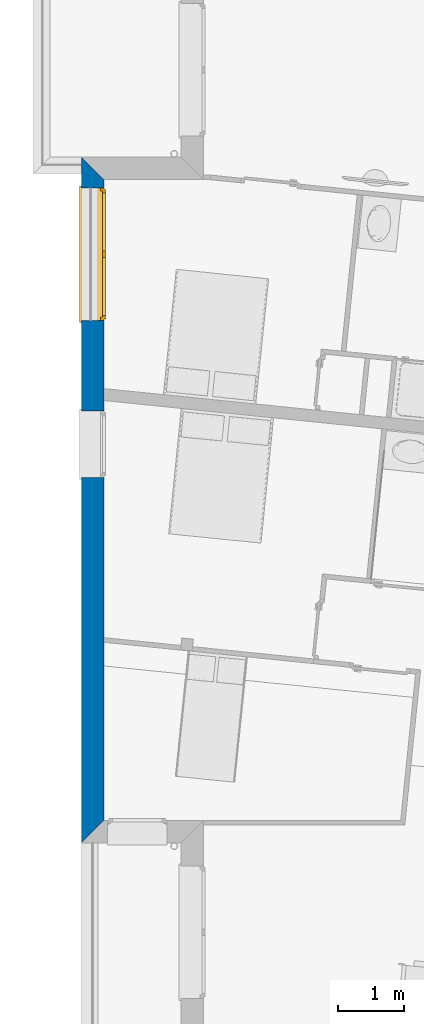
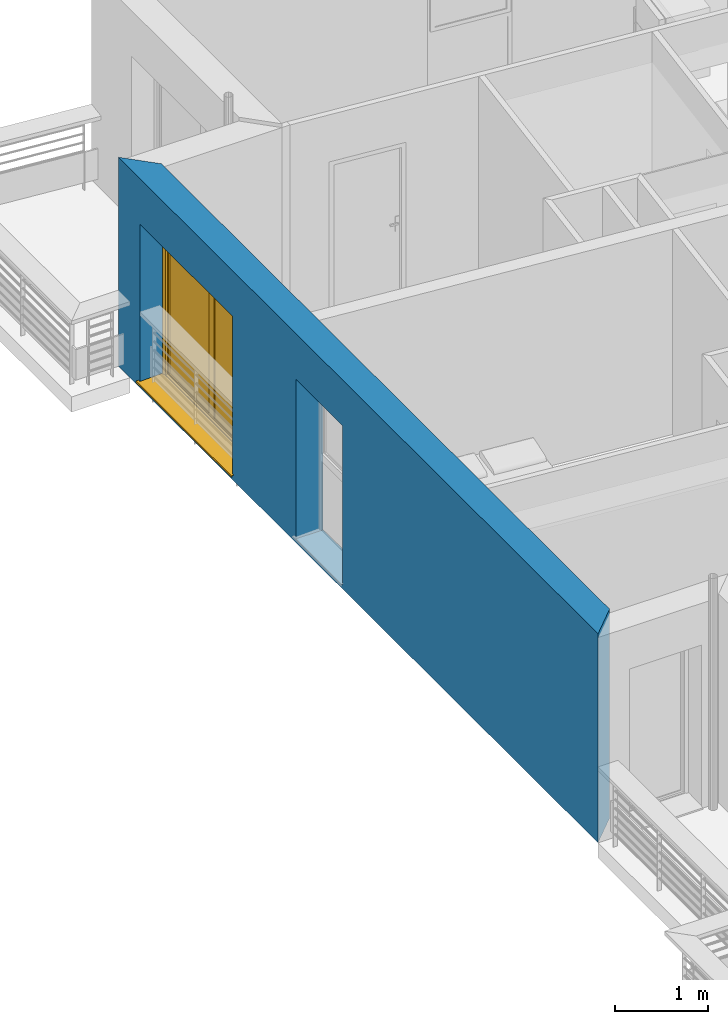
# One storey, part 47 of 164: 1 wall, 1 window, 2 openings.
"""IFC2X3 building model written with IfcOpenShell, lengths in millimetres."""

from ifc_helpers import new_model, entity, si_unit, converted_unit, derived_unit, money_unit, direction, frame, origin_with_axes, place, context, subcontext, project, spatial, polyline, outline, extrude, open_shell, faceted_brep, surface_model, source, transform, mapped, material, layer, layer_set, layer_usage, type_object, element, fill, save


model = new_model("IFC2X3")

# Units and contexts
model_context = context("Model", 3, precision=0.01, world=origin_with_axes(), true_north=direction((0.0, 1.0)))
body_context = subcontext(model_context, "Body", "Model", "MODEL_VIEW")
ifc_project = project(units=[si_unit("LENGTHUNIT", "METRE", prefix="MILLI"), si_unit("AREAUNIT", "SQUARE_METRE"), si_unit("VOLUMEUNIT", "CUBIC_METRE"), converted_unit("PLANEANGLEUNIT", "DEGREE", entity("IfcPlaneAngleMeasure", 0.0174532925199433), si_unit("PLANEANGLEUNIT", "RADIAN"), dimensions=[0, 0, 0, 0, 0, 0, 0]), money_unit("USD"), converted_unit("TIMEUNIT", "Year", entity("IfcTimeMeasure", 31557600.0), si_unit("TIMEUNIT", "SECOND"), dimensions=[0, 0, 1, 0, 0, 0, 0]), si_unit("MASSUNIT", "GRAM", prefix="KILO"), si_unit("THERMODYNAMICTEMPERATUREUNIT", "DEGREE_CELSIUS"), si_unit("LUMINOUSINTENSITYUNIT", "LUMEN"), si_unit("ENERGYUNIT", "JOULE", prefix="MEGA"), derived_unit("THERMALCONDUCTANCEUNIT", [(si_unit("POWERUNIT", "WATT"), 1), (si_unit("LENGTHUNIT", "METRE"), -1), (si_unit("THERMODYNAMICTEMPERATUREUNIT", "KELVIN"), -1)]), derived_unit("SPECIFICHEATCAPACITYUNIT", [(si_unit("ENERGYUNIT", "JOULE"), 1), (si_unit("MASSUNIT", "GRAM", prefix="KILO"), -1), (si_unit("THERMODYNAMICTEMPERATUREUNIT", "KELVIN"), -1)]), derived_unit("MASSDENSITYUNIT", [(si_unit("MASSUNIT", "GRAM", prefix="KILO"), 1), (si_unit("VOLUMEUNIT", "CUBIC_METRE"), -1)])], contexts=[model_context])

# Site, building, storey
site_placement = place(None, origin_with_axes())
site = spatial("IfcSite", under=ifc_project, at=site_placement, Name="Site", CompositionType="ELEMENT")
building_placement = place(site_placement, origin_with_axes())
building = spatial("IfcBuilding", under=site, at=building_placement, Name="Bâtiment", CompositionType="ELEMENT")
storey_placement = place(building_placement, frame((0.0, 0.0, 5750.0), z_axis=(0.0, 0.0, 1.0), x_axis=(1.0, 0.0, 0.0)))
storey = spatial("IfcBuildingStorey", under=building, at=storey_placement, Name="Etage1", CompositionType="ELEMENT", Elevation=5750.0)

# Wall, openings, window
ifc_material_1 = material(Name="Parpaing 312445824")
ifc_layer_1 = layer(ifc_material_1, 180.0, ventilated="UNKNOWN")
ifc_material_2 = material(Name="Isolant styromousse 301821074")
ifc_layer_2 = layer(ifc_material_2, 160.0, ventilated="UNKNOWN")
ifc_layer_set = layer_set([ifc_layer_1, ifc_layer_2], Name="isol int 18+16 0018356637")
ifc_layer_usage = layer_usage(ifc_layer_set, "AXIS2", "POSITIVE", 0.0)
wall_type = type_object("IfcWallType", Name="isol int 18+16 0018356637 340", PredefinedType="NOTDEFINED")
wall_placement = place(storey_placement, frame((2216634.233344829, -607167.3879007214, 0.0), z_axis=(0.0, 0.0, 1.0), x_axis=(0.0, -1.0, 0.0)))
wall = element("IfcWallStandardCase", 1, at=wall_placement, inside=storey, type_object=wall_type, material=ifc_layer_usage, Name="Mur-143", context=body_context, shape_type="SweptSolid", body=[
    extrude(outline(polyline([(0.0, 0.0), (10340.11790760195, 0.0), (10000.11790760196, 340.0000000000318), (340.0000000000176, 340.0000000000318), (0.0, 0.0)])), origin_with_axes(), (0.0, 0.0, 1.0), 2750.0),
])
opening_1_placement = place(wall_placement, frame((4327.743476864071, 2.273736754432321e-10, 49.99999999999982), z_axis=(0.0, 0.0, 1.0), x_axis=(1.0, 0.0, 0.0)))
element("IfcOpeningElement", 2, at=opening_1_placement, cuts=wall, Name="Fen-133", context=body_context, shape_type="Brep", body=[
    faceted_brep([(-499.9999999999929, 290.0000000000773, 2100.0), (-499.9999999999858, 341.0000000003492, 2100.0), (-499.9999999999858, 341.0000000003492, 0.0), (-499.9999999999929, 290.0000000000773, 0.0), (-499.9999999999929, 280.0000000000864, 2100.0), (-499.9999999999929, 280.0000000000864, 2350.0), (-499.9999999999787, 530.0000000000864, 2350.0), (-499.9999999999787, 530.0000000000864, 2100.0), (500.0000000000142, 341.0000000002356, 2100.0), (500.0000000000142, 341.0000000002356, 0.0), (500.0000000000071, 289.9999999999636, 0.0), (500.0, -1.00000000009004, 0.0), (-500.0, -0.9999999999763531, 0.0), (-500.0, -0.9999999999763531, 2100.0), (500.0000000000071, 279.9999999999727, 2100.0), (500.0000000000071, 279.9999999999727, 2350.0), (500.0000000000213, 529.9999999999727, 2350.0), (500.0000000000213, 529.9999999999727, 2100.0), (500.0000000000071, 289.9999999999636, 2100.0), (500.0, -1.00000000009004, 2100.0)], [[[0, 1, 2, 3]], [[1, 0, 4, 5, 6, 7]], [[1, 8, 9, 2]], [[10, 11, 12, 3, 2, 9]], [[4, 0, 3, 12, 13]], [[4, 14, 15, 5]], [[6, 5, 15, 16]], [[7, 6, 16, 17]], [[8, 1, 7, 17]], [[8, 18, 10, 9]], [[18, 14, 19, 11, 10]], [[13, 12, 11, 19]], [[14, 4, 13, 19]], [[18, 8, 17, 16, 15, 14]]]),
])
opening_2_placement = place(wall_placement, frame((1464.217680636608, 1.13686837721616e-10, 49.99999999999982), z_axis=(0.0, 0.0, 1.0), x_axis=(1.0, 0.0, 0.0)))
opening_2 = element("IfcOpeningElement", 3, at=opening_2_placement, cuts=wall, Name="Fen-207", context=body_context, shape_type="Brep", body=[
    faceted_brep([(-999.999999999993, 290.000000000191, 2100.0), (-999.9999999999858, 341.0000000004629, 2100.0), (-999.9999999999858, 341.0000000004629, 0.0), (-999.999999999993, 290.000000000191, 0.0), (-999.999999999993, 280.0000000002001, 2100.0), (-999.999999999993, 280.0000000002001, 2350.0), (-999.9999999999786, 530.0000000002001, 2350.0), (-999.9999999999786, 530.0000000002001, 2100.0), (1000.000000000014, 341.0000000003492, 2100.0), (1000.000000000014, 341.0000000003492, 0.0), (1000.000000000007, 290.0000000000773, 0.0), (1000.0, -0.9999999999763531, 0.0), (-1000.0, -0.9999999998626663, 0.0), (-1000.0, -0.9999999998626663, 2100.0), (1000.000000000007, 280.0000000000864, 2100.0), (1000.000000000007, 280.0000000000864, 2350.0), (1000.000000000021, 530.0000000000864, 2350.0), (1000.000000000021, 530.0000000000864, 2100.0), (1000.000000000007, 290.0000000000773, 2100.0), (1000.0, -0.9999999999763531, 2100.0)], [[[0, 1, 2, 3]], [[1, 0, 4, 5, 6, 7]], [[1, 8, 9, 2]], [[10, 11, 12, 3, 2, 9]], [[4, 0, 3, 12, 13]], [[4, 14, 15, 5]], [[6, 5, 15, 16]], [[7, 6, 16, 17]], [[8, 1, 7, 17]], [[8, 18, 10, 9]], [[18, 14, 19, 11, 10]], [[13, 12, 11, 19]], [[14, 4, 13, 19]], [[18, 8, 17, 16, 15, 14]]]),
])
window_style = type_object("IfcWindowStyle", Name="Fenêtre châssis double variable 27", ConstructionType="NOTDEFINED", OperationType="DOUBLE_PANEL_VERTICAL", ParameterTakesPrecedence=False, Sizeable=False)
shared_shape = source(origin_with_axes(), body_context, "Body", "SurfaceModel", [
    surface_model("IfcShellBasedSurfaceModel", [(-1000.0, -51.00000000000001, 40.00000000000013), (1000.0, -51.00000000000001, 40.0), (1000.0, -51.00000000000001, 50.0), (-1000.0, -51.00000000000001, 50.00000000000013), (-1030.0, -369.9999999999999, 28.96551724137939), (1030.0, -369.9999999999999, 28.96551724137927), (1030.0, -339.9999999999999, 30.00324289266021), (1000.0, -339.9999999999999, 30.00324289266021), (-1000.0, -339.9999999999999, 30.00324289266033), (-1030.0, -339.9999999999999, 30.00324289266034), (-1030.0, -369.9999999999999, 8.965517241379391), (1030.0, -369.9999999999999, 8.965517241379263), (-1030.0, -359.9999999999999, 18.96551724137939), (1030.0, -359.9999999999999, 18.96551724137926)], [open_shell([[[0, 1, 2, 3]], [[4, 5, 6, 7, 1, 0, 8, 9]], [[10, 11, 5, 4]], [[12, 13, 11, 10]]])]),
    faceted_brep([(1000.0, -60.00000000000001, 2350.0), (1000.0, 190.0, 2350.0), (997.0, 190.0, 2350.0), (997.0, -60.00000000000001, 2350.0), (1000.0, -60.00000000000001, 2100.0), (1000.0, 190.0, 2100.0), (997.0, 190.0, 2100.0), (997.0, -60.00000000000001, 2100.0)], [[[0, 1, 2, 3]], [[0, 4, 5, 1]], [[1, 5, 6, 2]], [[3, 2, 6, 7]], [[4, 0, 3, 7]], [[5, 4, 7, 6]]]),
    faceted_brep([(-997.0000000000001, -59.99999999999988, 2350.0), (-997.0000000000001, 190.0000000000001, 2350.0), (-1000.0, 190.0000000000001, 2350.0), (-1000.0, -59.99999999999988, 2350.0), (-997.0000000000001, -59.99999999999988, 2100.0), (-997.0000000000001, 190.0000000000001, 2100.0), (-1000.0, 190.0000000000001, 2100.0), (-1000.0, -59.99999999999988, 2100.0)], [[[0, 1, 2, 3]], [[0, 4, 5, 1]], [[1, 5, 6, 2]], [[3, 2, 6, 7]], [[4, 0, 3, 7]], [[5, 4, 7, 6]]]),
    faceted_brep([(997.0, -60.0, 2100.0), (997.0, -60.0, 2350.0), (-997.0, -59.99999999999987, 2350.0), (-997.0, -59.99999999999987, 2100.0), (997.0, -56.99999999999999, 2100.0), (997.0, -56.99999999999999, 2347.0), (997.0, 187.0, 2347.0), (997.0, 187.0, 2103.0), (997.0, -37.99999999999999, 2103.0), (997.0, -37.99999999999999, 2100.0), (997.0, 190.0, 2100.0), (997.0, 190.0, 2350.0), (-997.0, 190.0000000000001, 2350.0), (-997.0, 190.0000000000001, 2100.0), (-997.0, -37.99999999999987, 2100.0), (-997.0, -37.99999999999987, 2103.0), (-997.0, 187.0000000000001, 2103.0), (-997.0, 187.0000000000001, 2347.0), (-997.0, -56.99999999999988, 2347.0), (-997.0, -56.99999999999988, 2100.0)], [[[0, 1, 2, 3]], [[0, 4, 5, 6, 7, 8, 9, 10, 11, 1]], [[1, 11, 12, 2]], [[3, 2, 12, 13, 14, 15, 16, 17, 18, 19]], [[4, 0, 3, 19]], [[5, 4, 19, 18]], [[6, 5, 18, 17]], [[7, 6, 17, 16]], [[8, 7, 16, 15]], [[9, 8, 15, 14]], [[10, 9, 14, 13]], [[11, 10, 13, 12]]]),
    faceted_brep([(994.0, -40.37442957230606, 2206.419644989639), (994.0, -35.54711042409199, 2188.403844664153), (994.0, -27.66471820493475, 2171.5), (994.0, -16.9667554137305, 2156.22172576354), (994.0, -3.778274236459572, 2143.03324458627), (994.0, 11.50000000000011, 2132.335281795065), (994.0, 28.40384466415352, 2124.452889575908), (994.0, 46.4196449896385, 2119.625570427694), (994.0, 65.00000000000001, 2118.0), (994.0, 83.58035501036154, 2119.625570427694), (994.0, 101.5961553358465, 2124.452889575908), (994.0, 118.4999999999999, 2132.335281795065), (994.0, 133.7782742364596, 2143.03324458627), (994.0, 146.9667554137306, 2156.22172576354), (994.0, 157.6647182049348, 2171.5), (994.0, 165.5471104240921, 2188.403844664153), (994.0, 170.3744295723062, 2206.419644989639), (994.0, 171.9999999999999, 2225.0), (994.0, 170.3744295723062, 2243.580355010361), (994.0, 165.5471104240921, 2261.596155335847), (994.0, 157.6647182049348, 2278.5), (994.0, 146.9667554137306, 2293.77827423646), (994.0, 133.7782742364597, 2306.966755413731), (994.0, 118.5, 2317.664718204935), (994.0, 101.5961553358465, 2325.547110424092), (994.0, 83.58035501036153, 2330.374429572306), (994.0, 64.99999999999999, 2332.0), (994.0, 46.41964498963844, 2330.374429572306), (994.0, 28.40384466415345, 2325.547110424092), (994.0, 11.5, 2317.664718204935), (994.0, -3.778274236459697, 2306.966755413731), (994.0, -16.96675541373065, 2293.77827423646), (994.0, -27.66471820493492, 2278.5), (994.0, -35.54711042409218, 2261.596155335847), (994.0, -40.37442957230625, 2243.580355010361), (994.0, -41.99999999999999, 2225.0), (-994.0, -40.37442957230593, 2206.419644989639), (-994.0, -35.54711042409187, 2188.403844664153), (-994.0, -27.66471820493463, 2171.5), (-994.0, -16.96675541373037, 2156.22172576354), (-994.0, -3.778274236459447, 2143.03324458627), (-994.0, 11.50000000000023, 2132.335281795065), (-994.0, 28.40384466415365, 2124.452889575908), (-994.0, 46.41964498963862, 2119.625570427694), (-994.0, 65.00000000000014, 2118.0), (-994.0, 83.58035501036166, 2119.625570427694), (-994.0, 101.5961553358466, 2124.452889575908), (-994.0, 118.5000000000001, 2132.335281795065), (-994.0, 133.7782742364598, 2143.03324458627), (-994.0, 146.9667554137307, 2156.22172576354), (-994.0, 157.6647182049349, 2171.5), (-994.0, 165.5471104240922, 2188.403844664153), (-994.0, 170.3744295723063, 2206.419644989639), (-994.0, 172.0, 2225.0), (-994.0, 170.3744295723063, 2243.580355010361), (-994.0, 165.5471104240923, 2261.596155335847), (-994.0, 157.664718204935, 2278.5), (-994.0, 146.9667554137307, 2293.77827423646), (-994.0, 133.7782742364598, 2306.966755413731), (-994.0, 118.5000000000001, 2317.664718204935), (-994.0, 101.5961553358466, 2325.547110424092), (-994.0, 83.58035501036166, 2330.374429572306), (-994.0, 65.00000000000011, 2332.0), (-994.0, 46.41964498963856, 2330.374429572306), (-994.0, 28.40384466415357, 2325.547110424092), (-994.0, 11.50000000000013, 2317.664718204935), (-994.0, -3.778274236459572, 2306.966755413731), (-994.0, -16.96675541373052, 2293.77827423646), (-994.0, -27.6647182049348, 2278.5), (-994.0, -35.54711042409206, 2261.596155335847), (-994.0, -40.37442957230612, 2243.580355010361), (-994.0, -41.99999999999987, 2225.0)], [[[0, 1, 2, 3, 4, 5, 6, 7, 8, 9, 10, 11, 12, 13, 14, 15, 16, 17, 18, 19, 20, 21, 22, 23, 24, 25, 26, 27, 28, 29, 30, 31, 32, 33, 34, 35]], [[1, 0, 36, 37]], [[2, 1, 37, 38]], [[3, 2, 38, 39]], [[4, 3, 39, 40]], [[5, 4, 40, 41]], [[6, 5, 41, 42]], [[7, 6, 42, 43]], [[8, 7, 43, 44]], [[9, 8, 44, 45]], [[10, 9, 45, 46]], [[11, 10, 46, 47]], [[12, 11, 47, 48]], [[13, 12, 48, 49]], [[14, 13, 49, 50]], [[15, 14, 50, 51]], [[16, 15, 51, 52]], [[17, 16, 52, 53]], [[18, 17, 53, 54]], [[19, 18, 54, 55]], [[20, 19, 55, 56]], [[21, 20, 56, 57]], [[22, 21, 57, 58]], [[23, 22, 58, 59]], [[24, 23, 59, 60]], [[25, 24, 60, 61]], [[26, 25, 61, 62]], [[27, 26, 62, 63]], [[28, 27, 63, 64]], [[29, 28, 64, 65]], [[30, 29, 65, 66]], [[31, 30, 66, 67]], [[32, 31, 67, 68]], [[33, 32, 68, 69]], [[34, 33, 69, 70]], [[35, 34, 70, 71]], [[0, 35, 71, 36]], [[36, 71, 70, 69, 68, 67, 66, 65, 64, 63, 62, 61, 60, 59, 58, 57, 56, 55, 54, 53, 52, 51, 50, 49, 48, 47, 46, 45, 44, 43, 42, 41, 40, 39, 38, 37]]]),
    faceted_brep([(-1000.0, -34.99999999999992, 30.0), (-1000.0, -59.99999999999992, 30.0), (-1000.0, -59.99999999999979, 2100.0), (-1000.0, -34.99999999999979, 2100.0), (-975.0, -34.99999999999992, 30.0), (-975.0, -37.99999999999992, 30.0), (-997.0, -37.99999999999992, 30.0), (-997.0, -56.99999999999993, 30.0), (-975.0, -56.99999999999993, 30.0), (-975.0, -59.99999999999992, 30.0), (-975.0, -59.99999999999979, 2100.0), (-975.0, -56.99999999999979, 2100.0), (-997.0, -56.99999999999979, 2100.0), (-997.0, -37.99999999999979, 2100.0), (-975.0, -37.99999999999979, 2100.0), (-975.0, -34.99999999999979, 2100.0)], [[[0, 1, 2, 3]], [[0, 4, 5, 6, 7, 8, 9, 1]], [[1, 9, 10, 2]], [[3, 2, 10, 11, 12, 13, 14, 15]], [[4, 0, 3, 15]], [[5, 4, 15, 14]], [[6, 5, 14, 13]], [[7, 6, 13, 12]], [[8, 7, 12, 11]], [[9, 8, 11, 10]]]),
    faceted_brep([(1000.0, -34.99999999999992, 30.0), (1000.0, -34.99999999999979, 2100.0), (1000.0, -59.99999999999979, 2100.0), (1000.0, -59.99999999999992, 30.0), (975.0, -34.99999999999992, 30.0), (975.0, -34.99999999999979, 2100.0), (975.0, -37.99999999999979, 2100.0), (997.0, -37.99999999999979, 2100.0), (997.0, -56.99999999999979, 2100.0), (975.0, -56.99999999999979, 2100.0), (975.0, -59.99999999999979, 2100.0), (975.0, -59.99999999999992, 30.0), (975.0, -56.99999999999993, 30.0), (997.0, -56.99999999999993, 30.0), (997.0, -37.99999999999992, 30.0), (975.0, -37.99999999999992, 30.0)], [[[0, 1, 2, 3]], [[4, 5, 1, 0]], [[1, 5, 6, 7, 8, 9, 10, 2]], [[3, 2, 10, 11]], [[0, 3, 11, 12, 13, 14, 15, 4]], [[15, 6, 5, 4]], [[14, 7, 6, 15]], [[13, 8, 7, 14]], [[12, 9, 8, 13]], [[11, 10, 9, 12]]]),
    faceted_brep([(-997.0, -46.66666666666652, 2225.0), (997.0, -46.66666666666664, 2225.0), (997.0, -46.66666666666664, 2216.666666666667), (-997.0, -46.66666666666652, 2216.666666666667), (-997.0, -51.66666666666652, 2225.0), (997.0, -51.66666666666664, 2225.0), (997.0, -51.66666666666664, 2216.666666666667), (997.0, -49.99999999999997, 2200.0), (997.0, -44.99999999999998, 2200.0), (-997.0, -44.99999999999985, 2200.0), (-997.0, -49.99999999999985, 2200.0), (-997.0, -51.66666666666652, 2216.666666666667)], [[[0, 1, 2, 3]], [[1, 0, 4, 5]], [[1, 5, 6, 7, 8, 2]], [[2, 8, 9, 3]], [[4, 0, 3, 9, 10, 11]], [[6, 5, 4, 11]], [[7, 6, 11, 10]], [[8, 7, 10, 9]]]),
    faceted_brep([(997.0, -44.99999999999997, 2200.0), (997.0, -46.66666666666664, 2183.333333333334), (-997.0, -46.66666666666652, 2183.333333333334), (-997.0, -44.99999999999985, 2200.0), (997.0, -49.99999999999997, 2200.0), (997.0, -51.66666666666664, 2183.333333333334), (997.0, -51.66666666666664, 2166.666666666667), (997.0, -49.99999999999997, 2150.000000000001), (997.0, -44.99999999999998, 2150.000000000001), (997.0, -46.66666666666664, 2166.666666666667), (-997.0, -46.66666666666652, 2166.666666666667), (-997.0, -44.99999999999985, 2150.000000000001), (-997.0, -49.99999999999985, 2150.000000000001), (-997.0, -51.66666666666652, 2166.666666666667), (-997.0, -51.66666666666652, 2183.333333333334), (-997.0, -49.99999999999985, 2200.0)], [[[0, 1, 2, 3]], [[0, 4, 5, 6, 7, 8, 9, 1]], [[1, 9, 10, 2]], [[3, 2, 10, 11, 12, 13, 14, 15]], [[4, 0, 3, 15]], [[5, 4, 15, 14]], [[6, 5, 14, 13]], [[7, 6, 13, 12]], [[8, 7, 12, 11]], [[9, 8, 11, 10]]]),
    faceted_brep([(997.0, -44.99999999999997, 2150.000000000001), (997.0, -46.66666666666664, 2133.333333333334), (-997.0, -46.66666666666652, 2133.333333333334), (-997.0, -44.99999999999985, 2150.000000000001), (997.0, -49.99999999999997, 2150.000000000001), (997.0, -51.66666666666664, 2133.333333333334), (997.0, -51.66666666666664, 2116.666666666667), (997.0, -49.99999999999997, 2100.000000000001), (997.0, -44.99999999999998, 2100.000000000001), (997.0, -46.66666666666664, 2116.666666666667), (-997.0, -46.66666666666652, 2116.666666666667), (-997.0, -44.99999999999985, 2100.000000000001), (-997.0, -49.99999999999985, 2100.000000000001), (-997.0, -51.66666666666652, 2116.666666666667), (-997.0, -51.66666666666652, 2133.333333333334), (-997.0, -49.99999999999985, 2150.000000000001)], [[[0, 1, 2, 3]], [[0, 4, 5, 6, 7, 8, 9, 1]], [[1, 9, 10, 2]], [[3, 2, 10, 11, 12, 13, 14, 15]], [[4, 0, 3, 15]], [[5, 4, 15, 14]], [[6, 5, 14, 13]], [[7, 6, 13, 12]], [[8, 7, 12, 11]], [[9, 8, 11, 10]]]),
    faceted_brep([(975.0, 0.0, 2050.0), (975.0, -25.00000000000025, 2050.0), (950.0, -25.00000000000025, 2050.0), (950.0, -50.00000000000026, 2050.0), (1000.0, -50.00000000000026, 2050.0), (1000.0, 0.0, 2050.0), (975.0, 0.0, 50.00000000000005), (975.0, -25.00000000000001, 50.00000000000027), (950.0, -25.00000000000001, 50.00000000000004), (950.0, -50.00000000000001, 50.00000000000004), (1000.0, -50.00000000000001, 50.00000000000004), (1000.0, 0.0, 50.00000000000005)], [[[0, 1, 2, 3, 4, 5]], [[1, 0, 6, 7]], [[8, 2, 1, 7]], [[2, 8, 9, 3]], [[4, 3, 9, 10]], [[5, 4, 10, 11]], [[6, 0, 5, 11]], [[7, 6, 11, 10, 9, 8]]]),
    faceted_brep([(-950.0, -25.00000000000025, 2050.0), (-975.0, -25.00000000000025, 2050.0), (-975.0, 0.0, 2050.0), (-1000.0, 0.0, 2050.0), (-1000.0, -50.00000000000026, 2050.0), (-950.0, -50.00000000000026, 2050.0), (-950.0, -25.00000000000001, 50.00000000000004), (-975.0, -25.00000000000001, 50.00000000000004), (-975.0, 0.0, 50.00000000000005), (-1000.0, 0.0, 50.00000000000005), (-1000.0, -50.00000000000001, 50.00000000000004), (-950.0, -50.00000000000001, 50.00000000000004)], [[[0, 1, 2, 3, 4, 5]], [[1, 0, 6, 7]], [[8, 2, 1, 7]], [[2, 8, 9, 3]], [[9, 10, 4, 3]], [[10, 11, 5, 4]], [[6, 0, 5, 11]], [[7, 6, 11, 10, 9, 8]]]),
    faceted_brep([(-950.0, -25.00000000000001, 50.00000000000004), (-975.0, -25.00000000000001, 50.00000000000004), (-975.0, 0.0, 50.00000000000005), (-1000.0, 0.0, 50.00000000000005), (-1000.0, -50.00000000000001, 50.00000000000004), (-950.0, -50.00000000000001, 50.00000000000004), (950.0, -25.00000000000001, 50.00000000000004), (975.0, -25.00000000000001, 50.00000000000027), (975.0, -25.0, 24.99999999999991), (-975.0, -25.0, 24.99999999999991), (-975.0, 0.0, 24.99999999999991), (975.0, 0.0, 24.99999999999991), (975.0, 0.0, 50.00000000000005), (1000.0, 0.0, 50.00000000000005), (1000.0, 0.0, 0.0), (-1000.0, 0.0, 0.0), (-1000.0, -50.0, 0.0), (1000.0, -50.00000000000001, 50.00000000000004), (950.0, -50.00000000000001, 50.00000000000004), (1000.0, -50.0, 0.0)], [[[0, 1, 2, 3, 4, 5]], [[1, 0, 6, 7, 8, 9]], [[10, 2, 1, 9]], [[11, 12, 13, 14, 15, 3, 2, 10]], [[15, 16, 4, 3]], [[17, 18, 5, 4, 16, 19]], [[6, 0, 5, 18]], [[7, 6, 18, 17, 13, 12]], [[7, 12, 11, 8]], [[11, 10, 9, 8]], [[13, 17, 19, 14]], [[14, 19, 16, 15]]]),
    faceted_brep([(975.0, 0.0, 2050.0), (975.0, 0.0, 2075.0), (-975.0, 0.0, 2075.0), (-975.0, 0.0, 2050.0), (-1000.0, 0.0, 2050.0), (-1000.0, 0.0, 2100.0), (1000.0, 0.0, 2100.0), (1000.0, 0.0, 2050.0), (975.0, -25.00000000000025, 2050.0), (975.0, -25.00000000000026, 2075.0), (-975.0, -25.00000000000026, 2075.0), (-975.0, -25.00000000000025, 2050.0), (-950.0, -25.00000000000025, 2050.0), (-950.0, -50.00000000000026, 2050.0), (-1000.0, -50.00000000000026, 2050.0), (-1000.0, -50.00000000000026, 2100.0), (1000.0, -50.00000000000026, 2100.0), (1000.0, -50.00000000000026, 2050.0), (950.0, -50.00000000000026, 2050.0), (950.0, -25.00000000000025, 2050.0)], [[[0, 1, 2, 3, 4, 5, 6, 7]], [[1, 0, 8, 9]], [[2, 1, 9, 10]], [[3, 2, 10, 11]], [[11, 12, 13, 14, 4, 3]], [[4, 14, 15, 5]], [[5, 15, 16, 6]], [[6, 16, 17, 7]], [[8, 0, 7, 17, 18, 19]], [[12, 11, 10, 9, 8, 19]], [[12, 19, 18, 13]], [[14, 13, 18, 17, 16, 15]]]),
    faceted_brep([(925.0, -25.00000000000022, 2025.0), (975.0, -25.00000000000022, 2025.0), (975.0, 24.99999999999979, 2025.0), (925.0, 24.99999999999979, 2025.0), (925.0, -24.99999999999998, 75.00000000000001), (975.0, -24.99999999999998, 75.00000000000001), (975.0, 25.00000000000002, 75.00000000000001), (925.0, 25.00000000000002, 75.00000000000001)], [[[0, 1, 2, 3]], [[0, 4, 5, 1]], [[1, 5, 6, 2]], [[3, 2, 6, 7]], [[4, 0, 3, 7]], [[5, 4, 7, 6]]]),
    faceted_brep([(49.99999999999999, -25.00000000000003, 75.00000000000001), (0.0, -25.00000000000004, 75.00000000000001), (0.0, 24.99999999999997, 75.00000000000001), (49.99999999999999, 24.99999999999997, 75.00000000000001), (49.99999999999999, -25.00000000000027, 2025.0), (0.0, -25.00000000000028, 2025.0), (0.0, 24.99999999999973, 2025.0), (49.99999999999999, 24.99999999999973, 2025.0)], [[[0, 1, 2, 3]], [[0, 4, 5, 1]], [[1, 5, 6, 2]], [[3, 2, 6, 7]], [[4, 0, 3, 7]], [[5, 4, 7, 6]]]),
    faceted_brep([(0.0, -25.00000000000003, 25.0), (0.0, -25.00000000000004, 75.00000000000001), (0.0, 24.99999999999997, 75.00000000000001), (0.0, 24.99999999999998, 25.00000000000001), (975.0, -24.99999999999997, 25.0), (975.0, -24.99999999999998, 75.00000000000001), (925.0, -24.99999999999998, 75.00000000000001), (49.99999999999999, -25.00000000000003, 75.00000000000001), (49.99999999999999, 24.99999999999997, 75.00000000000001), (925.0, 25.00000000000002, 75.00000000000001), (975.0, 25.00000000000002, 75.00000000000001), (975.0, 25.00000000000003, 25.00000000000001)], [[[0, 1, 2, 3]], [[0, 4, 5, 6, 7, 1]], [[1, 7, 8, 2]], [[3, 2, 8, 9, 10, 11]], [[4, 0, 3, 11]], [[5, 4, 11, 10]], [[6, 5, 10, 9]], [[7, 6, 9, 8]]]),
    faceted_brep([(975.0, -25.00000000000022, 2075.0), (975.0, -25.00000000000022, 2025.0), (975.0, 24.99999999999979, 2025.0), (975.0, 24.99999999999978, 2075.0), (0.0, -25.00000000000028, 2075.0), (0.0, -25.00000000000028, 2025.0), (49.99999999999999, -25.00000000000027, 2025.0), (925.0, -25.00000000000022, 2025.0), (925.0, 24.99999999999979, 2025.0), (49.99999999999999, 24.99999999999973, 2025.0), (0.0, 24.99999999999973, 2025.0), (0.0, 24.99999999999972, 2075.0)], [[[0, 1, 2, 3]], [[0, 4, 5, 6, 7, 1]], [[1, 7, 8, 2]], [[3, 2, 8, 9, 10, 11]], [[4, 0, 3, 11]], [[5, 4, 11, 10]], [[6, 5, 10, 9]], [[7, 6, 9, 8]]]),
    surface_model("IfcShellBasedSurfaceModel", [(925.0, -10.00000000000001, 75.00000000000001), (925.0, -10.00000000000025, 2025.0), (49.99999999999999, -10.00000000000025, 2025.0), (49.99999999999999, -10.00000000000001, 75.00000000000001)], [open_shell([[[0, 1, 2, 3]]])]),
    surface_model("IfcShellBasedSurfaceModel", [(925.0, 9.999999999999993, 75.00000000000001), (49.99999999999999, 9.999999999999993, 75.00000000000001), (49.99999999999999, 9.999999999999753, 2025.0), (925.0, 9.999999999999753, 2025.0)], [open_shell([[[0, 1, 2, 3]]])]),
    faceted_brep([(-49.99999999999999, -25.00000000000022, 2025.0), (0.0, -25.00000000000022, 2025.0), (0.0, 24.99999999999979, 2025.0), (-49.99999999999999, 24.99999999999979, 2025.0), (-49.99999999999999, -24.99999999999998, 75.00000000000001), (0.0, -24.99999999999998, 75.00000000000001), (0.0, 25.00000000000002, 75.00000000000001), (-49.99999999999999, 25.00000000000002, 75.00000000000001)], [[[0, 1, 2, 3]], [[0, 4, 5, 1]], [[1, 5, 6, 2]], [[3, 2, 6, 7]], [[4, 0, 3, 7]], [[5, 4, 7, 6]]]),
    faceted_brep([(-925.0, -25.00000000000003, 75.00000000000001), (-975.0, -25.00000000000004, 75.00000000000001), (-975.0, 24.99999999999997, 75.00000000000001), (-925.0, 24.99999999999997, 75.00000000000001), (-925.0, -25.00000000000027, 2025.0), (-975.0, -25.00000000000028, 2025.0), (-975.0, 24.99999999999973, 2025.0), (-925.0, 24.99999999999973, 2025.0)], [[[0, 1, 2, 3]], [[0, 4, 5, 1]], [[1, 5, 6, 2]], [[3, 2, 6, 7]], [[4, 0, 3, 7]], [[5, 4, 7, 6]]]),
    faceted_brep([(-975.0, -25.00000000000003, 25.0), (-975.0, -25.00000000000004, 75.00000000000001), (-975.0, 24.99999999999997, 75.00000000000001), (-975.0, 24.99999999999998, 25.00000000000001), (0.0, -24.99999999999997, 25.0), (0.0, -24.99999999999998, 75.00000000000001), (-49.99999999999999, -24.99999999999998, 75.00000000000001), (-925.0, -25.00000000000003, 75.00000000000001), (-925.0, 24.99999999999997, 75.00000000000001), (-49.99999999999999, 25.00000000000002, 75.00000000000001), (0.0, 25.00000000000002, 75.00000000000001), (0.0, 25.00000000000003, 25.00000000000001)], [[[0, 1, 2, 3]], [[0, 4, 5, 6, 7, 1]], [[1, 7, 8, 2]], [[3, 2, 8, 9, 10, 11]], [[4, 0, 3, 11]], [[5, 4, 11, 10]], [[6, 5, 10, 9]], [[7, 6, 9, 8]]]),
    faceted_brep([(0.0, -25.00000000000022, 2075.0), (0.0, -25.00000000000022, 2025.0), (0.0, 24.99999999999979, 2025.0), (0.0, 24.99999999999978, 2075.0), (-975.0, -25.00000000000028, 2075.0), (-975.0, -25.00000000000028, 2025.0), (-925.0, -25.00000000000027, 2025.0), (-49.99999999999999, -25.00000000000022, 2025.0), (-49.99999999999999, 24.99999999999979, 2025.0), (-925.0, 24.99999999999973, 2025.0), (-975.0, 24.99999999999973, 2025.0), (-975.0, 24.99999999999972, 2075.0)], [[[0, 1, 2, 3]], [[0, 4, 5, 6, 7, 1]], [[1, 7, 8, 2]], [[3, 2, 8, 9, 10, 11]], [[4, 0, 3, 11]], [[5, 4, 11, 10]], [[6, 5, 10, 9]], [[7, 6, 9, 8]]]),
    surface_model("IfcShellBasedSurfaceModel", [(-49.99999999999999, -10.00000000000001, 75.00000000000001), (-49.99999999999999, -10.00000000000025, 2025.0), (-925.0, -10.00000000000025, 2025.0), (-925.0, -10.00000000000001, 75.00000000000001)], [open_shell([[[0, 1, 2, 3]]])]),
    surface_model("IfcShellBasedSurfaceModel", [(-49.99999999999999, 9.999999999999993, 75.00000000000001), (-925.0, 9.999999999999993, 75.00000000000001), (-925.0, 9.999999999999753, 2025.0), (-49.99999999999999, 9.999999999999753, 2025.0)], [open_shell([[[0, 1, 2, 3]]])]),
])
window_placement = place(opening_2_placement, frame((-999.9999999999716, 1.13686837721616e-10, 0.0), z_axis=(0.0, 0.0, 1.0), x_axis=(1.0, 0.0, 0.0)))
window = element("IfcWindow", 4, at=window_placement, inside=storey, type_object=window_style, Name="Fen-207", OverallHeight=2100.0, OverallWidth=2000.0, context=body_context, shape_type="MappedRepresentation", body=[
    mapped(shared_shape, transform((1000.000000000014, 339.9999999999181, 0.0))),
])
fill(opening_2, window)

save(model, "model.ifc")
